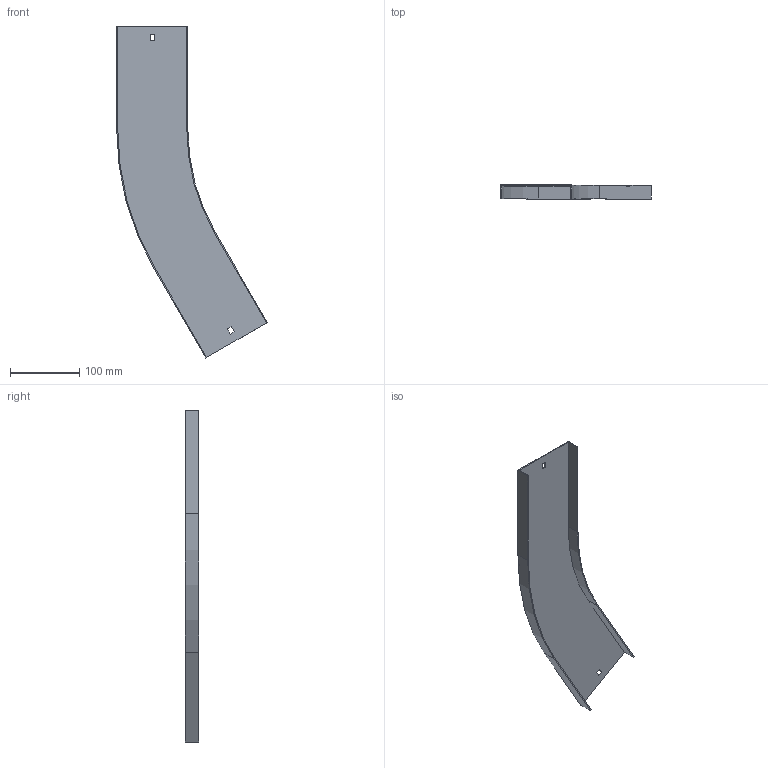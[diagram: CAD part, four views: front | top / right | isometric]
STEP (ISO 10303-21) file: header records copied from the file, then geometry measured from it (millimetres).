
FILE_DESCRIPTION (( 'STEP AP214' ), '1' );
FILE_NAME ('A2_12N3R100.step', '2025-02-21T10:48:44', ( '' ), ( '' ), 'SwSTEP 2.0', 'SolidWorks 2023', '' );
FILE_SCHEMA (( 'AUTOMOTIVE_DESIGN' ));
Length unit declared in the file: millimetre
Products named in the file (1): A2_12N3R100
Bounding box: 217.99 x 20 x 480.65 mm (x, y, z)
Volume: 101309 mm3; surface area: 137041.5 mm2
Topology: 1 solids, 1 shells, 26 faces, 72 edges, 48 vertices
Faces by surface type: plane 22, cylinder 4
Entity records: 855 total; most frequent: CARTESIAN_POINT 147, ORIENTED_EDGE 144, DIRECTION 134, EDGE_CURVE 72, LINE 64, VECTOR 64, VERTEX_POINT 48, AXIS2_PLACEMENT_3D 35
